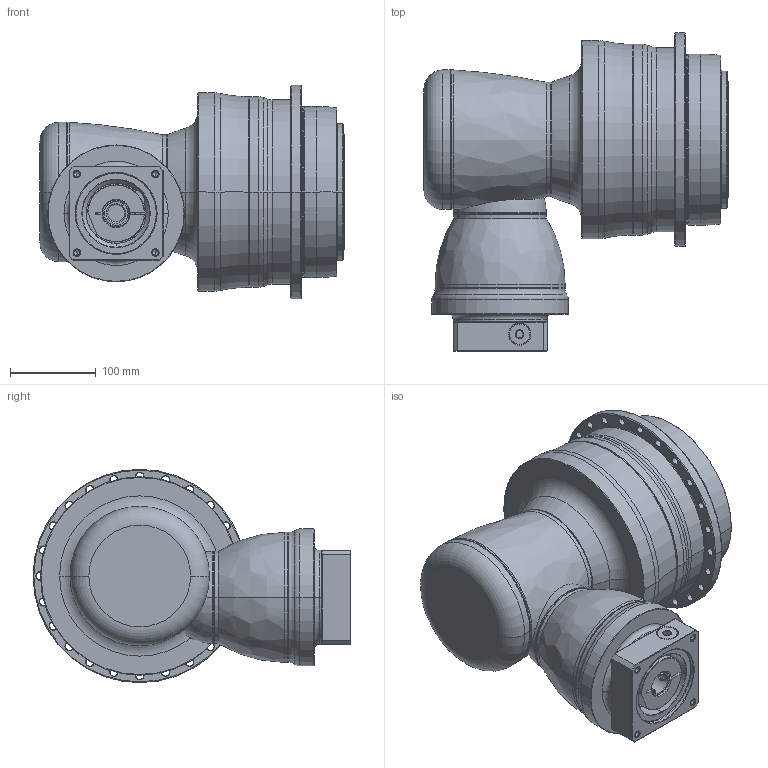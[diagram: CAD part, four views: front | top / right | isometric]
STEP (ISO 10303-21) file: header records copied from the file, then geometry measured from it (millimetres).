
FILE_DESCRIPTION((''),'2;1');
FILE_NAME('APK200_3ST_28-P0409610201_ASM','2018-07-19T',('D00080'),(''),'PRO/ENGINEER BY PARAMETRIC TECHNOLOGY CORPORATION, 2008170','PRO/ENGINEER BY PARAMETRIC TECHNOLOGY CORPORATION, 2008170','');
FILE_SCHEMA(('CONFIG_CONTROL_DESIGN'));
Length unit declared in the file: millimetre
Products named in the file (13): P1008500002; P1832600001; P0278601003; P0359601103; P1211600001; P1315500001; P1007501001; P1318501101; P0503600010; P0912551001; P0409610201; 21711418017; APK200_3ST_28-P0409610201_ASM
Assembly tree (12 placements, depth 2):
  APK200_3ST_28-P0409610201_ASM
    P1008500002
    P1832600001
    P0278601003
    P0359601103
    P1211600001
    P1315500001
    P1007501001
    P1318501101
    P0503600010
    P0912551001
    P0409610201
    21711418017
Bounding box: 355.5 x 371.75 x 249.5 mm (x, y, z)
Volume: 12132403.8 mm3; surface area: 909799.2 mm2
Topology: 13 solids, 38 shells, 769 faces, 1803 edges, 1089 vertices
Faces by surface type: cylinder 311, cone 221, plane 129, torus 85, bspline 21, sphere 2
Entity records: 27344 total; most frequent: CARTESIAN_POINT 9082, DIRECTION 4202, ORIENTED_EDGE 3416, AXIS2_PLACEMENT_3D 1803, EDGE_CURVE 1759, VERTEX_POINT 1089, CIRCLE 1020, EDGE_LOOP 906
